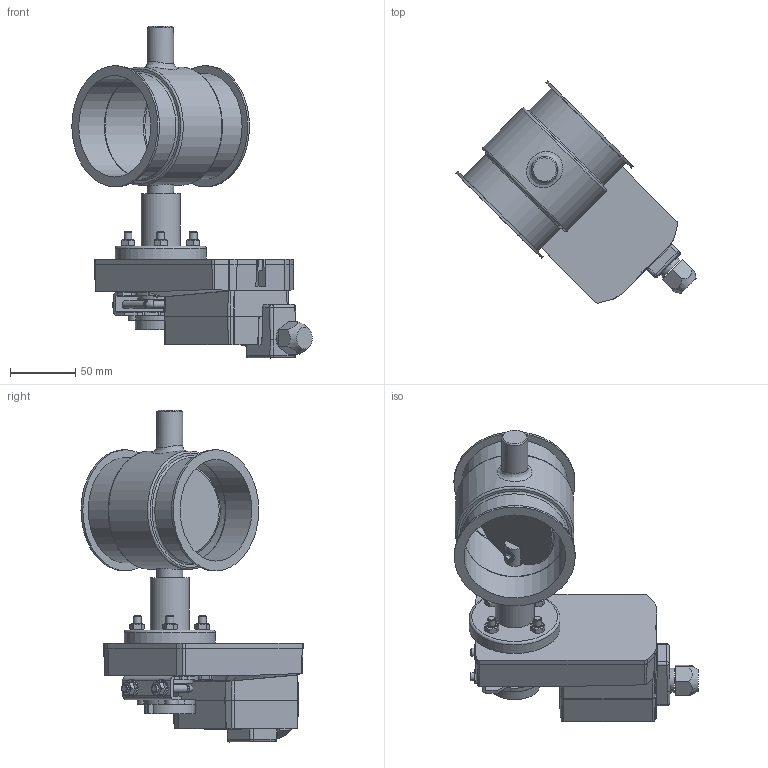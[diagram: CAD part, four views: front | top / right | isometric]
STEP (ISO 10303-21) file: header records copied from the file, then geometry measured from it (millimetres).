
FILE_DESCRIPTION((''),'2;1');
FILE_NAME('U:\Wolfgang\Marcel-3D\fertig\Kapitel 8\0821214.stp','2011-05-03T15:07:28',('TK1'),(''),'Autodesk Inventor 2010','Autodesk Inventor 2010','');
FILE_SCHEMA(('AUTOMOTIVE_DESIGN { 1 0 10303 214 1 1 1 1 }'));
Length unit declared in the file: millimetre
Products named in the file (10): 0821214; BuchseD15 70-50; Bolzen D15; Scheibe80b; DIN 6912 M6 x 16; Distanzstück S; SM24A--A_standard_terminal_1cable; DIN 7991 M6x25; DIN 555 - ersetzt durch DIN EN 24034 M6; 0811076
Assembly tree (17 placements, depth 2):
  0821214
    BuchseD15 70-50
    Bolzen D15  x2
    Scheibe80b
    DIN 6912 M6 x 16  x2
    Distanzstück S
    SM24A--A_standard_terminal_1cable
    DIN 7991 M6x25  x4
    DIN 555 - ersetzt durch DIN EN 24034 M6  x4
    0811076
Bounding box: 184.64 x 170.54 x 255 mm (x, y, z)
Volume: 708468.6 mm3; surface area: 217764.2 mm2
Topology: 20 solids, 20 shells, 728 faces, 1798 edges, 1149 vertices
Faces by surface type: plane 381, cylinder 187, bspline 90, cone 38, torus 24, sphere 8
Full cylindrical faces by diameter (mm): 3 x2, 3.6 x2, 4.2 x4, 4.773 x4, 4.813 x4, 5.1 x1, 5.25 x4, 6 x14, 7 x4, 9.742 x1, 10 x4, 10.083 x1, 12 x4, 14 x2, 15 x6, 15.5 x1, 18.5 x1, 20 x2, 24 x1, 25.194 x1, 26 x2, 30 x1, 30.042 x1, 35 x2, 70 x1, 78 x3, 79 x1, 81 x2, 87 x1, 88 x1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
Entity records: 20386 total; most frequent: CARTESIAN_POINT 5514, ORIENTED_EDGE 2868, DIRECTION 2780, EDGE_CURVE 1434, AXIS2_PLACEMENT_3D 1000, VERTEX_POINT 983, EDGE_LOOP 819, VECTOR 780
